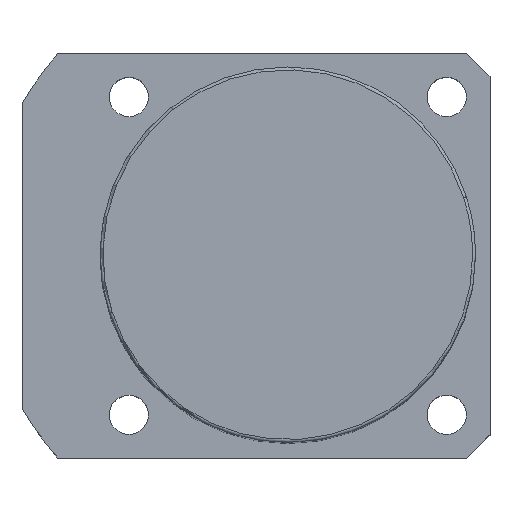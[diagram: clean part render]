
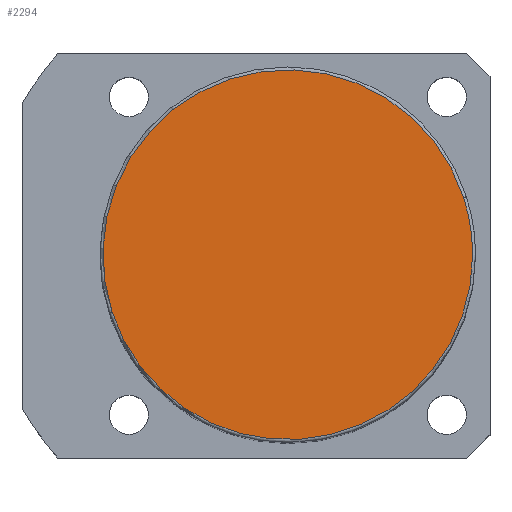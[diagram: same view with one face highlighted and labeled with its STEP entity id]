
A CAD part, top view. The second image highlights one B-rep face of the part: STEP entity #2294.
In plain terms, the highlighted planar face has unit normal (0, 0, 1).
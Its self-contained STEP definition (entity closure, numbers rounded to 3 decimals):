
#2227=CARTESIAN_POINT('',(30.434,9.889,126.0));
#2228=VERTEX_POINT('',#2227);
#2246=CARTESIAN_POINT('',(-30.434,-9.889,126.0));
#2247=VERTEX_POINT('',#2246);
#2255=CARTESIAN_POINT('',(0.0,0.0,126.0));
#2256=DIRECTION('',(0.0,0.0,1.0));
#2257=DIRECTION('',(1.0,0.0,0.0));
#2258=AXIS2_PLACEMENT_3D('',#2255,#2256,#2257);
#2259=CIRCLE('',#2258,32.0);
#2260=EDGE_CURVE('no 2129',#2228,#2247,#2259,.T.);
#2270=CARTESIAN_POINT('',(32.0,0.0,126.0));
#2271=VERTEX_POINT('',#2270);
#2272=CARTESIAN_POINT('',(0.0,0.0,126.0));
#2273=DIRECTION('',(0.0,0.0,1.0));
#2274=DIRECTION('',(1.0,0.0,0.0));
#2275=AXIS2_PLACEMENT_3D('',#2272,#2273,#2274);
#2276=CIRCLE('',#2275,32.0);
#2277=EDGE_CURVE('no 2138',#2271,#2228,#2276,.T.);
#2278=ORIENTED_EDGE('',*,*,#2277,.T.);
#2279=ORIENTED_EDGE('',*,*,#2260,.T.);
#2280=CARTESIAN_POINT('',(0.0,0.0,126.0));
#2281=DIRECTION('',(0.0,0.0,1.0));
#2282=DIRECTION('',(1.0,0.0,0.0));
#2283=AXIS2_PLACEMENT_3D('',#2280,#2281,#2282);
#2284=CIRCLE('',#2283,32.0);
#2285=EDGE_CURVE('no 2144',#2247,#2271,#2284,.T.);
#2286=ORIENTED_EDGE('',*,*,#2285,.T.);
#2287=EDGE_LOOP('',(#2278,#2279,#2286));
#2288=FACE_OUTER_BOUND('',#2287,.T.);
#2289=CARTESIAN_POINT('',(0.0,0.0,126.0));
#2290=DIRECTION('',(0.0,0.0,1.0));
#2291=DIRECTION('',(1.0,0.0,0.0));
#2292=AXIS2_PLACEMENT_3D('',#2289,#2290,#2291);
#2293=PLANE('',#2292);
#2294=ADVANCED_FACE('no 2131',(#2288),#2293,.T.);
